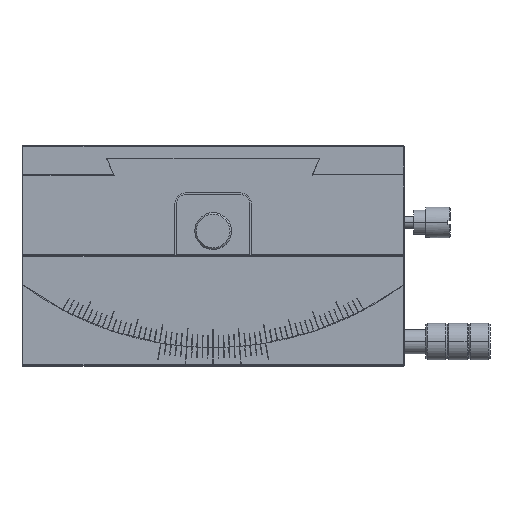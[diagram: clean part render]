
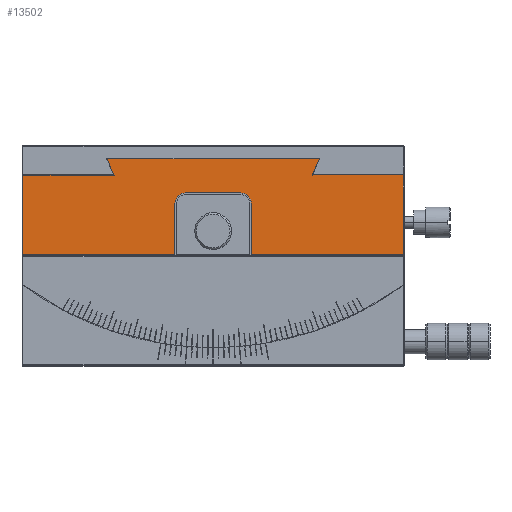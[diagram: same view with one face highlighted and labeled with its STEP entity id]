
A CAD part, top view. The second image highlights one B-rep face of the part: STEP entity #13502.
In plain terms, the highlighted planar face has unit normal (0, 0, 1) as drawn and (1, 0, 0) by its records, which use the part's own axes.
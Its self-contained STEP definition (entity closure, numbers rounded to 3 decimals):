
#103 = LINE ( 'NONE', #6020, #9075 ) ;
#290 = DIRECTION ( 'NONE',  ( 0., 0., 1. ) ) ;
#449 = CARTESIAN_POINT ( 'NONE',  ( 62.5, 33., -62.2 ) ) ;
#455 = EDGE_CURVE ( 'NONE', #18592, #10895, #8553, .T. ) ;
#575 = AXIS2_PLACEMENT_3D ( 'NONE', #1125, #18777, #15879 ) ;
#1125 = CARTESIAN_POINT ( 'NONE',  ( 62.5, 33., -62.5 ) ) ;
#1522 = CARTESIAN_POINT ( 'NONE',  ( 62.5, 28.159, -33.211 ) ) ;
#1523 = CIRCLE ( 'NONE', #1818, 3.5 ) ;
#1650 = LINE ( 'NONE', #12037, #17726 ) ;
#1818 = AXIS2_PLACEMENT_3D ( 'NONE', #5348, #6701, #16812 ) ;
#1889 = CARTESIAN_POINT ( 'NONE',  ( 62.5, 31.661, 34.809 ) ) ;
#2119 = EDGE_CURVE ( 'NONE', #16448, #2453, #10926, .T. ) ;
#2180 = VECTOR ( 'NONE', #11152, 1000. ) ;
#2211 = ORIENTED_EDGE ( 'NONE', *, *, #10602, .F. ) ;
#2280 = VECTOR ( 'NONE', #7734, 1000. ) ;
#2453 = VERTEX_POINT ( 'NONE', #17708 ) ;
#2634 = DIRECTION ( 'NONE',  ( 1., 0., 0. ) ) ;
#3614 = ORIENTED_EDGE ( 'NONE', *, *, #8154, .T. ) ;
#3840 = CARTESIAN_POINT ( 'NONE',  ( 62.5, 31.661, 34.809 ) ) ;
#4023 = CARTESIAN_POINT ( 'NONE',  ( 62.5, 0.3, -62.2 ) ) ;
#4030 = FACE_OUTER_BOUND ( 'NONE', #7489, .T. ) ;
#4144 = CARTESIAN_POINT ( 'NONE',  ( 62.5, 0.3, -62.5 ) ) ;
#4155 = CARTESIAN_POINT ( 'NONE',  ( 62.5, 17., 12.5 ) ) ;
#4338 = CARTESIAN_POINT ( 'NONE',  ( 62.5, 26.413, -32.4 ) ) ;
#4435 = CARTESIAN_POINT ( 'NONE',  ( 62.5, 29.908, -34.014 ) ) ;
#4739 = VECTOR ( 'NONE', #10073, 1000. ) ;
#4804 = VECTOR ( 'NONE', #16134, 1000. ) ;
#5015 = B_SPLINE_CURVE_WITH_KNOTS ( 'NONE', 3,
 ( #4338, #1522, #4435, #18993 ),
 .UNSPECIFIED., .F., .F.,
 ( 4, 4 ),
 ( 0.053, 0.059 ),
 .UNSPECIFIED. ) ;
#5348 = CARTESIAN_POINT ( 'NONE',  ( 62.5, 17., -9. ) ) ;
#5478 = VERTEX_POINT ( 'NONE', #14746 ) ;
#5864 = EDGE_CURVE ( 'NONE', #12848, #16336, #18720, .T. ) ;
#6020 = CARTESIAN_POINT ( 'NONE',  ( 62.5, 31.661, 0. ) ) ;
#6614 = B_SPLINE_CURVE_WITH_KNOTS ( 'NONE', 3,
 ( #10633, #7912, #13719, #1889 ),
 .UNSPECIFIED., .F., .F.,
 ( 4, 4 ),
 ( 0.053, 0.059 ),
 .UNSPECIFIED. ) ;
#6677 = LINE ( 'NONE', #8242, #15377 ) ;
#6701 = DIRECTION ( 'NONE',  ( 1., 0., 0. ) ) ;
#6889 = DIRECTION ( 'NONE',  ( 0., -1., 0. ) ) ;
#7004 = DIRECTION ( 'NONE',  ( 0., 0., 1. ) ) ;
#7430 = EDGE_CURVE ( 'NONE', #13576, #10895, #12678, .T. ) ;
#7489 = EDGE_LOOP ( 'NONE', ( #16987, #14343, #10687, #7735, #18722, #16879, #3614, #9060, #15947, #14463, #2211, #8075, #13802, #10504 ) ) ;
#7734 = DIRECTION ( 'NONE',  ( 0., 1., 0. ) ) ;
#7735 = ORIENTED_EDGE ( 'NONE', *, *, #18803, .T. ) ;
#7912 = CARTESIAN_POINT ( 'NONE',  ( 62.5, 28.101, 33.185 ) ) ;
#8075 = ORIENTED_EDGE ( 'NONE', *, *, #18651, .F. ) ;
#8154 = EDGE_CURVE ( 'NONE', #11580, #11919, #17105, .T. ) ;
#8242 = CARTESIAN_POINT ( 'NONE',  ( 62.5, 20.5, 9. ) ) ;
#8383 = CARTESIAN_POINT ( 'NONE',  ( 62.5, 26.327, 62.5 ) ) ;
#8553 = LINE ( 'NONE', #10003, #12614 ) ;
#8703 = CARTESIAN_POINT ( 'NONE',  ( 62.5, 0.3, 62.2 ) ) ;
#8823 = EDGE_CURVE ( 'NONE', #11580, #13501, #6614, .T. ) ;
#9060 = ORIENTED_EDGE ( 'NONE', *, *, #14642, .T. ) ;
#9075 = VECTOR ( 'NONE', #290, 1000. ) ;
#9198 = LINE ( 'NONE', #12011, #12339 ) ;
#10003 = CARTESIAN_POINT ( 'NONE',  ( 62.5, 17., 12.5 ) ) ;
#10042 = EDGE_CURVE ( 'NONE', #12848, #16448, #9198, .T. ) ;
#10073 = DIRECTION ( 'NONE',  ( 0., 0., -1. ) ) ;
#10419 = CARTESIAN_POINT ( 'NONE',  ( 62.5, 26.327, 62.2 ) ) ;
#10448 = VERTEX_POINT ( 'NONE', #18077 ) ;
#10470 = EDGE_CURVE ( 'NONE', #16336, #10448, #1523, .T. ) ;
#10504 = ORIENTED_EDGE ( 'NONE', *, *, #5864, .F. ) ;
#10602 = EDGE_CURVE ( 'NONE', #14110, #18592, #16413, .T. ) ;
#10633 = CARTESIAN_POINT ( 'NONE',  ( 62.5, 26.327, 32.361 ) ) ;
#10687 = ORIENTED_EDGE ( 'NONE', *, *, #17958, .T. ) ;
#10895 = VERTEX_POINT ( 'NONE', #17178 ) ;
#10926 = LINE ( 'NONE', #449, #2280 ) ;
#11009 = CARTESIAN_POINT ( 'NONE',  ( 62.5, 26.327, 32.361 ) ) ;
#11152 = DIRECTION ( 'NONE',  ( 0., 1., 0. ) ) ;
#11580 = VERTEX_POINT ( 'NONE', #11009 ) ;
#11822 = DIRECTION ( 'NONE',  ( 0., 0., -1. ) ) ;
#11919 = VERTEX_POINT ( 'NONE', #10419 ) ;
#12011 = CARTESIAN_POINT ( 'NONE',  ( 62.5, 0.3, -62.5 ) ) ;
#12037 = CARTESIAN_POINT ( 'NONE',  ( 62.5, 0., 62.2 ) ) ;
#12339 = VECTOR ( 'NONE', #11822, 1000. ) ;
#12590 = DIRECTION ( 'NONE',  ( 0., 0., 1. ) ) ;
#12614 = VECTOR ( 'NONE', #6889, 1000. ) ;
#12678 = LINE ( 'NONE', #4144, #4739 ) ;
#12848 = VERTEX_POINT ( 'NONE', #19035 ) ;
#13501 = VERTEX_POINT ( 'NONE', #3840 ) ;
#13502 = ADVANCED_FACE ( 'NONE', ( #4030 ), #18577, .T. ) ;
#13576 = VERTEX_POINT ( 'NONE', #8703 ) ;
#13589 = CARTESIAN_POINT ( 'NONE',  ( 62.5, 26.413, -62.5 ) ) ;
#13719 = CARTESIAN_POINT ( 'NONE',  ( 62.5, 29.879, 34.001 ) ) ;
#13802 = ORIENTED_EDGE ( 'NONE', *, *, #10470, .F. ) ;
#14110 = VERTEX_POINT ( 'NONE', #18159 ) ;
#14257 = VECTOR ( 'NONE', #18646, 1000. ) ;
#14343 = ORIENTED_EDGE ( 'NONE', *, *, #2119, .T. ) ;
#14463 = ORIENTED_EDGE ( 'NONE', *, *, #455, .F. ) ;
#14557 = CARTESIAN_POINT ( 'NONE',  ( 62.5, 17., 9. ) ) ;
#14616 = EDGE_CURVE ( 'NONE', #15663, #13501, #103, .T. ) ;
#14642 = EDGE_CURVE ( 'NONE', #11919, #13576, #1650, .T. ) ;
#14662 = CARTESIAN_POINT ( 'NONE',  ( 62.5, 31.661, -34.809 ) ) ;
#14746 = CARTESIAN_POINT ( 'NONE',  ( 62.5, 26.413, -32.4 ) ) ;
#14847 = AXIS2_PLACEMENT_3D ( 'NONE', #14557, #2634, #7004 ) ;
#14951 = LINE ( 'NONE', #13589, #4804 ) ;
#15029 = DIRECTION ( 'NONE',  ( 0., -1., 0. ) ) ;
#15377 = VECTOR ( 'NONE', #12590, 1000. ) ;
#15663 = VERTEX_POINT ( 'NONE', #14662 ) ;
#15879 = DIRECTION ( 'NONE',  ( 0., 0., -1. ) ) ;
#15947 = ORIENTED_EDGE ( 'NONE', *, *, #7430, .T. ) ;
#16134 = DIRECTION ( 'NONE',  ( 0., 0., 1. ) ) ;
#16336 = VERTEX_POINT ( 'NONE', #16751 ) ;
#16413 = CIRCLE ( 'NONE', #14847, 3.5 ) ;
#16448 = VERTEX_POINT ( 'NONE', #4023 ) ;
#16751 = CARTESIAN_POINT ( 'NONE',  ( 62.5, 17., -12.5 ) ) ;
#16812 = DIRECTION ( 'NONE',  ( 0., 0., 1. ) ) ;
#16879 = ORIENTED_EDGE ( 'NONE', *, *, #8823, .F. ) ;
#16987 = ORIENTED_EDGE ( 'NONE', *, *, #10042, .T. ) ;
#17075 = CARTESIAN_POINT ( 'NONE',  ( 62.5, 17., -12.5 ) ) ;
#17105 = LINE ( 'NONE', #8383, #14257 ) ;
#17178 = CARTESIAN_POINT ( 'NONE',  ( 62.5, 0.3, 12.5 ) ) ;
#17708 = CARTESIAN_POINT ( 'NONE',  ( 62.5, 26.413, -62.2 ) ) ;
#17726 = VECTOR ( 'NONE', #15029, 1000. ) ;
#17958 = EDGE_CURVE ( 'NONE', #2453, #5478, #14951, .T. ) ;
#18077 = CARTESIAN_POINT ( 'NONE',  ( 62.5, 20.5, -9. ) ) ;
#18159 = CARTESIAN_POINT ( 'NONE',  ( 62.5, 20.5, 9. ) ) ;
#18577 = PLANE ( 'NONE',  #575 ) ;
#18592 = VERTEX_POINT ( 'NONE', #4155 ) ;
#18646 = DIRECTION ( 'NONE',  ( 0., 0., 1. ) ) ;
#18651 = EDGE_CURVE ( 'NONE', #10448, #14110, #6677, .T. ) ;
#18720 = LINE ( 'NONE', #17075, #2180 ) ;
#18722 = ORIENTED_EDGE ( 'NONE', *, *, #14616, .T. ) ;
#18777 = DIRECTION ( 'NONE',  ( 1., 0., 0. ) ) ;
#18803 = EDGE_CURVE ( 'NONE', #5478, #15663, #5015, .T. ) ;
#18993 = CARTESIAN_POINT ( 'NONE',  ( 62.5, 31.661, -34.809 ) ) ;
#19035 = CARTESIAN_POINT ( 'NONE',  ( 62.5, 0.3, -12.5 ) ) ;
